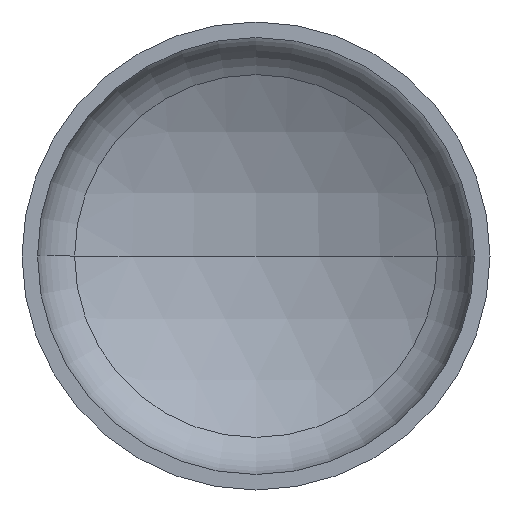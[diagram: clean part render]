
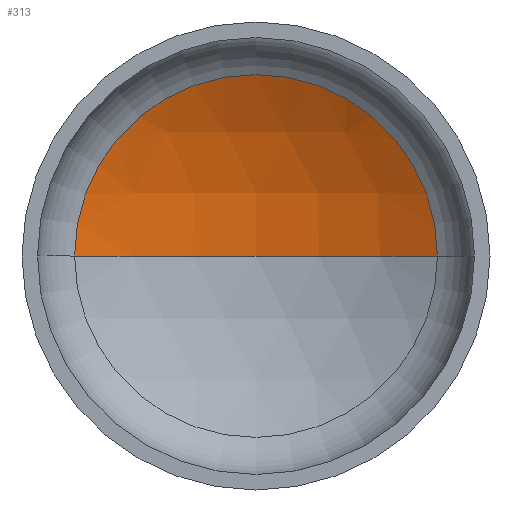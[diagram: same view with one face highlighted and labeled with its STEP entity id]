
A CAD part, front view. The second image highlights one B-rep face of the part: STEP entity #313.
In plain terms, the highlighted spherical face has radius 2080 mm.
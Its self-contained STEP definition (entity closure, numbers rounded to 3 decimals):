
#2 = CARTESIAN_POINT ( 'NONE',  ( 0., 710.373, 0. ) ) ;
#11 = EDGE_LOOP ( 'NONE', ( #170, #147, #140 ) ) ;
#12 = DIRECTION ( 'NONE',  ( -1., 0., 0. ) ) ;
#15 = AXIS2_PLACEMENT_3D ( 'NONE', #100, #395, #113 ) ;
#21 = DIRECTION ( 'NONE',  ( 0., 0., -1. ) ) ;
#25 = AXIS2_PLACEMENT_3D ( 'NONE', #227, #228, #274 ) ;
#28 = AXIS2_PLACEMENT_3D ( 'NONE', #92, #21, #12 ) ;
#29 = AXIS2_PLACEMENT_3D ( 'NONE', #215, #200, #201 ) ;
#33 = FACE_OUTER_BOUND ( 'NONE', #11, .T. ) ;
#83 = EDGE_CURVE ( 'NONE', #156, #124, #104, .T. ) ;
#92 = CARTESIAN_POINT ( 'NONE',  ( 0., -1369.627, 0. ) ) ;
#100 = CARTESIAN_POINT ( 'NONE',  ( 0., -1369.627, 0. ) ) ;
#104 = CIRCLE ( 'NONE', #29, 1007.81 ) ;
#113 = DIRECTION ( 'NONE',  ( -1., 0., 0. ) ) ;
#123 = EDGE_CURVE ( 'NONE', #126, #156, #264, .T. ) ;
#124 = VERTEX_POINT ( 'NONE', #220 ) ;
#126 = VERTEX_POINT ( 'NONE', #2 ) ;
#140 = ORIENTED_EDGE ( 'NONE', *, *, #83, .T. ) ;
#147 = ORIENTED_EDGE ( 'NONE', *, *, #123, .T. ) ;
#156 = VERTEX_POINT ( 'NONE', #280 ) ;
#158 = EDGE_CURVE ( 'NONE', #126, #124, #374, .T. ) ;
#170 = ORIENTED_EDGE ( 'NONE', *, *, #158, .F. ) ;
#181 = SPHERICAL_SURFACE ( 'NONE', #15, 2080. ) ;
#200 = DIRECTION ( 'NONE',  ( 0., -1., 0. ) ) ;
#201 = DIRECTION ( 'NONE',  ( 1., 0., 0. ) ) ;
#215 = CARTESIAN_POINT ( 'NONE',  ( 0., 449.911, 0. ) ) ;
#220 = CARTESIAN_POINT ( 'NONE',  ( -1007.81, 449.911, 0. ) ) ;
#227 = CARTESIAN_POINT ( 'NONE',  ( 0., -1369.627, 0. ) ) ;
#228 = DIRECTION ( 'NONE',  ( 0., 0., 1. ) ) ;
#264 = CIRCLE ( 'NONE', #28, 2080. ) ;
#274 = DIRECTION ( 'NONE',  ( 1., 0., 0. ) ) ;
#280 = CARTESIAN_POINT ( 'NONE',  ( 1007.81, 449.911, 0. ) ) ;
#313 = ADVANCED_FACE ( 'NONE', ( #33 ), #181, .F. ) ;
#374 = CIRCLE ( 'NONE', #25, 2080. ) ;
#395 = DIRECTION ( 'NONE',  ( 0., 0., -1. ) ) ;
